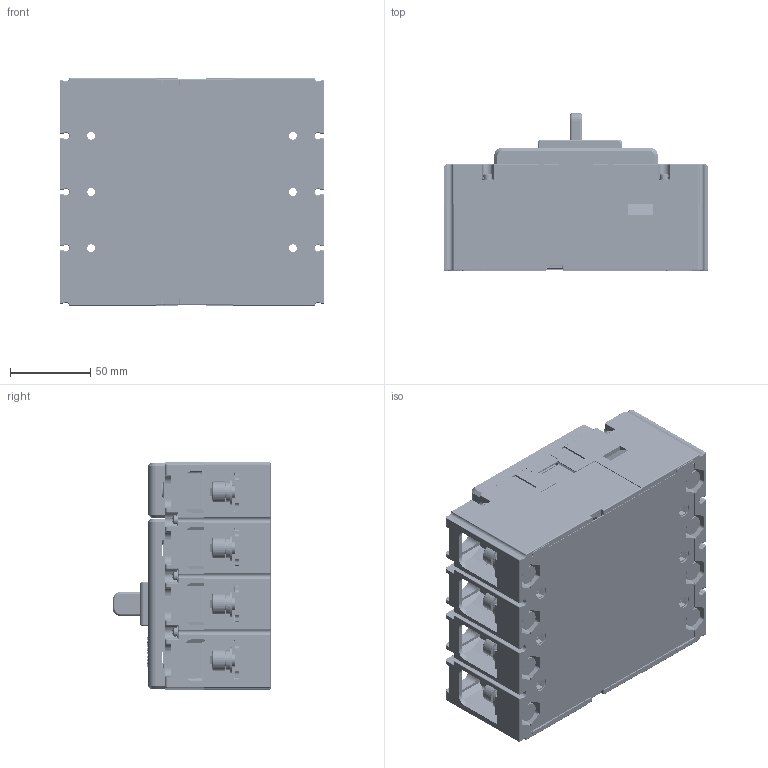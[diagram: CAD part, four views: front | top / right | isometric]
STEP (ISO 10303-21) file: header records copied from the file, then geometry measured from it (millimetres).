
FILE_DESCRIPTION((''),'2;1');
FILE_NAME('2253025500_ASM','2021-06-10T',('yan.shen'),(''),'PRO/ENGINEER BY PARAMETRIC TECHNOLOGY CORPORATION, 2015440','PRO/ENGINEER BY PARAMETRIC TECHNOLOGY CORPORATION, 2015440','');
FILE_SCHEMA(('CONFIG_CONTROL_DESIGN'));
Products named in the file (40): JZ-5024044400; GB_T809-M3X12; 5024044400_ASM; 8940007200; 85050241P01; 5510011100_ASM; 8551033400; 8585063900; 1111_ASM; 8751002200; 8750030100; 8253076600; 5253029200_ASM; ZG-5315050100; GB_T809-M3X8; 5315050100_ASM; 8282018100_AF1; 8253077300; 5315051300_ASM; 8315095900; 8315096000; 7010100305R01_GB_T823_M3X10; 7090300201_GB_T93_3; GB_T97_4_3; 5850007700_ASM; 5315051500_ASM; GB_T70_1-M8X20; 7090200704_GB_T97_1_8; 7090370701K_GB_T93_8; 5850004100_AF12_ASM; 5850004100_AF13_ASM; 5850004100_AF14_ASM; 5850004100_AF15_ASM; 5850004100_AF16_ASM; 5850004100_AF17_ASM; 5850004100_AF18_ASM; 5850004100_AF19_ASM; 8742102800; 7030100225_GB_T9074_4-M3X30; 2253025500_ASM
Assembly tree (108 placements, depth 5):
  2253025500_ASM
    1111_ASM
      5024044400_ASM
        JZ-5024044400
        GB_T809-M3X12  x10
      8940007200  x8
      5510011100_ASM
        85050241P01  x2
      8551033400  x4
      8585063900  x4
    8751002200  x4
    8750030100  x4
    5253029200_ASM
      8253076600
    5315051500_ASM
      5315051300_ASM
        5315050100_ASM
          ZG-5315050100
          GB_T809-M3X8  x6
        8282018100_AF1
        8253077300
      8315095900
      8315096000
      5850007700_ASM  x6
        7010100305R01_GB_T823_M3X10
        7090300201_GB_T93_3
        GB_T97_4_3
    5850004100_AF12_ASM
      GB_T70_1-M8X20
      7090200704_GB_T97_1_8
      7090370701K_GB_T93_8
    5850004100_AF13_ASM
      GB_T70_1-M8X20
      7090200704_GB_T97_1_8
      7090370701K_GB_T93_8
    5850004100_AF14_ASM
      GB_T70_1-M8X20
      7090200704_GB_T97_1_8
      7090370701K_GB_T93_8
    5850004100_AF15_ASM
      GB_T70_1-M8X20
      7090200704_GB_T97_1_8
      7090370701K_GB_T93_8
    5850004100_AF16_ASM
      GB_T70_1-M8X20
      7090200704_GB_T97_1_8
      7090370701K_GB_T93_8
    5850004100_AF17_ASM
      GB_T70_1-M8X20
      7090200704_GB_T97_1_8
      7090370701K_GB_T93_8
    5850004100_AF18_ASM
      GB_T70_1-M8X20
      7090200704_GB_T97_1_8
      7090370701K_GB_T93_8
    5850004100_AF19_ASM
      GB_T70_1-M8X20
      7090200704_GB_T97_1_8
      7090370701K_GB_T93_8
    8742102800
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Bounding box: 165 x 99 x 142 mm (x, y, z)
Volume: 619852.8 mm3; surface area: 445126 mm2
Topology: 100 solids, 156 shells, 9568 faces, 24584 edges, 15511 vertices
Faces by surface type: plane 4719, cylinder 3293, torus 642, cone 330, sphere 276, bspline 158, extrusion 150
Entity records: 257168 total; most frequent: CARTESIAN_POINT 69257, ORIENTED_EDGE 39264, DIRECTION 39036, EDGE_CURVE 19650, AXIS2_PLACEMENT_3D 13024, VECTOR 12988, LINE 12838, VERTEX_POINT 12370
